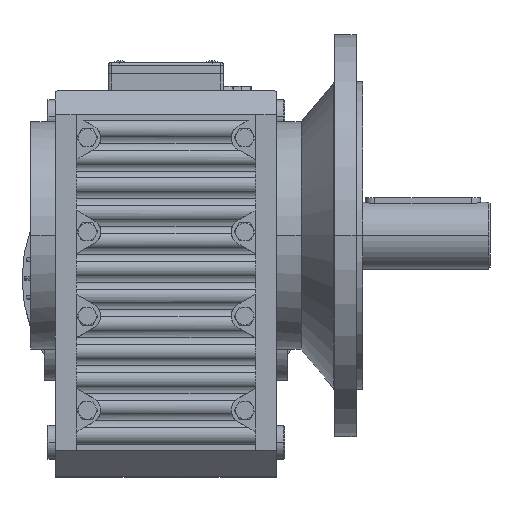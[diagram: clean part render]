
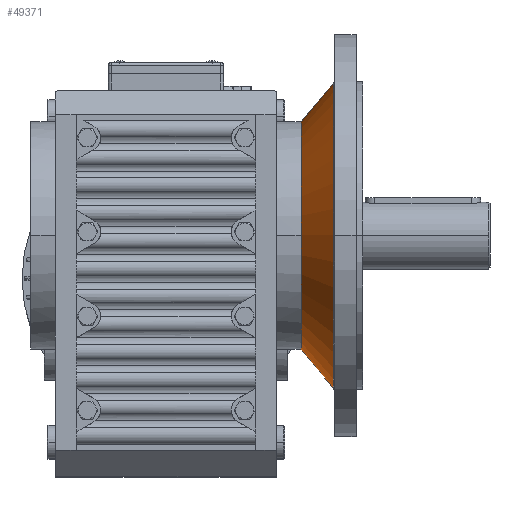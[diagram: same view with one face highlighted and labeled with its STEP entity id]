
A CAD part, top view. The second image highlights one B-rep face of the part: STEP entity #49371.
In plain terms, the highlighted conical face has half-angle 50.194 degrees and reference radius 113.888 mm.
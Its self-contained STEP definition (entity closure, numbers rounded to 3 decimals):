
#1934 = EDGE_CURVE ( 'NONE', #63061, #53418, #34266, .T. ) ;
#3352 = CARTESIAN_POINT ( 'NONE',  ( 54.409, -103.306, 29.5 ) ) ;
#3630 = CARTESIAN_POINT ( 'NONE',  ( 54.409, 10.582, 29.5 ) ) ;
#4234 = DIRECTION ( 'NONE',  ( 0., 0., -1. ) ) ;
#6593 = CARTESIAN_POINT ( 'NONE',  ( 54.409, 124.469, 29.5 ) ) ;
#8025 = VECTOR ( 'NONE', #11718, 1000. ) ;
#8802 = DIRECTION ( 'NONE',  ( 1., 0., 0. ) ) ;
#10214 = ORIENTED_EDGE ( 'NONE', *, *, #40483, .T. ) ;
#11718 = DIRECTION ( 'NONE',  ( 0.64, 0.768, 0. ) ) ;
#14840 = CARTESIAN_POINT ( 'NONE',  ( 54.409, -103.306, 29.5 ) ) ;
#17015 = ORIENTED_EDGE ( 'NONE', *, *, #59998, .F. ) ;
#17071 = DIRECTION ( 'NONE',  ( -1., 0., 0. ) ) ;
#19050 = CONICAL_SURFACE ( 'NONE', #21534, 113.887, 0.876 ) ;
#19585 = DIRECTION ( 'NONE',  ( 0., 1., 0. ) ) ;
#20350 = CARTESIAN_POINT ( 'NONE',  ( 30.336, 95.582, 29.5 ) ) ;
#21534 = AXIS2_PLACEMENT_3D ( 'NONE', #3630, #8802, #35020 ) ;
#23106 = FACE_OUTER_BOUND ( 'NONE', #62146, .T. ) ;
#24170 = AXIS2_PLACEMENT_3D ( 'NONE', #57672, #17071, #41791 ) ;
#25208 = LINE ( 'NONE', #3352, #55718 ) ;
#27466 = ORIENTED_EDGE ( 'NONE', *, *, #1934, .T. ) ;
#29622 = CIRCLE ( 'NONE', #32591, 113.887 ) ;
#32591 = AXIS2_PLACEMENT_3D ( 'NONE', #50666, #34940, #4234 ) ;
#32691 = AXIS2_PLACEMENT_3D ( 'NONE', #34442, #60401, #19585 ) ;
#32820 = CIRCLE ( 'NONE', #24170, 113.887 ) ;
#33841 = DIRECTION ( 'NONE',  ( 0.64, -0.768, 0. ) ) ;
#34266 = CIRCLE ( 'NONE', #32691, 85. ) ;
#34442 = CARTESIAN_POINT ( 'NONE',  ( 30.336, 10.582, 29.5 ) ) ;
#34940 = DIRECTION ( 'NONE',  ( -1., 0., 0. ) ) ;
#35020 = DIRECTION ( 'NONE',  ( 0., 1., 0. ) ) ;
#40483 = EDGE_CURVE ( 'NONE', #41449, #50676, #29622, .T. ) ;
#41449 = VERTEX_POINT ( 'NONE', #14840 ) ;
#41791 = DIRECTION ( 'NONE',  ( 0., 0., -1. ) ) ;
#42235 = CARTESIAN_POINT ( 'NONE',  ( 54.409, 10.582, 143.387 ) ) ;
#49290 = CARTESIAN_POINT ( 'NONE',  ( 30.336, -74.418, 29.5 ) ) ;
#49371 = ADVANCED_FACE ( 'NONE', ( #23106 ), #19050, .T. ) ;
#50666 = CARTESIAN_POINT ( 'NONE',  ( 54.409, 10.582, 29.5 ) ) ;
#50676 = VERTEX_POINT ( 'NONE', #42235 ) ;
#50829 = ORIENTED_EDGE ( 'NONE', *, *, #62821, .T. ) ;
#52501 = VERTEX_POINT ( 'NONE', #66216 ) ;
#53418 = VERTEX_POINT ( 'NONE', #49290 ) ;
#55718 = VECTOR ( 'NONE', #33841, 1000. ) ;
#57672 = CARTESIAN_POINT ( 'NONE',  ( 54.409, 10.582, 29.5 ) ) ;
#59319 = LINE ( 'NONE', #6593, #8025 ) ;
#59933 = EDGE_CURVE ( 'NONE', #50676, #52501, #32820, .T. ) ;
#59998 = EDGE_CURVE ( 'NONE', #63061, #52501, #59319, .T. ) ;
#60401 = DIRECTION ( 'NONE',  ( 1., 0., 0. ) ) ;
#62146 = EDGE_LOOP ( 'NONE', ( #27466, #50829, #10214, #63414, #17015 ) ) ;
#62821 = EDGE_CURVE ( 'NONE', #53418, #41449, #25208, .T. ) ;
#63061 = VERTEX_POINT ( 'NONE', #20350 ) ;
#63414 = ORIENTED_EDGE ( 'NONE', *, *, #59933, .T. ) ;
#66216 = CARTESIAN_POINT ( 'NONE',  ( 54.409, 124.469, 29.5 ) ) ;
